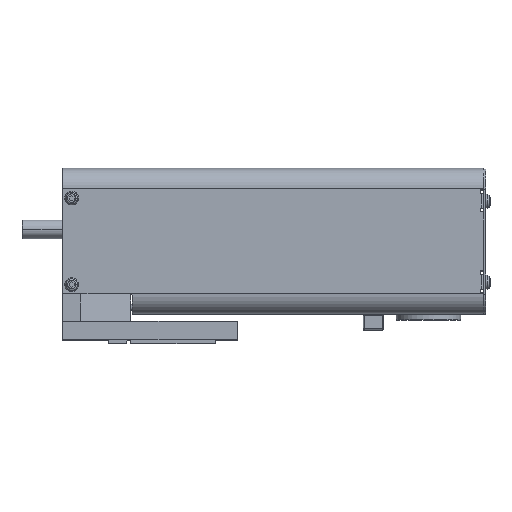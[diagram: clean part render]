
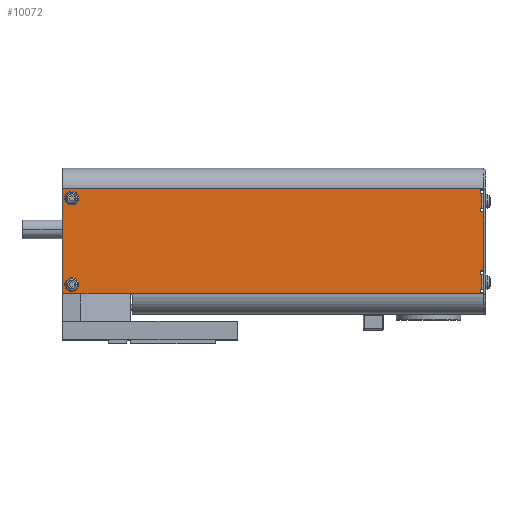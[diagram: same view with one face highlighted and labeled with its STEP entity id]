
A CAD part, top view. The second image highlights one B-rep face of the part: STEP entity #10072.
In plain terms, the highlighted planar face has unit normal (0, 0, 1).
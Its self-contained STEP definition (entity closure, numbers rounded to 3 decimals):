
#550=DIRECTION('',(1.,0.,0.));
#551=VECTOR('',#550,190.8);
#552=CARTESIAN_POINT('',(38.,-35.,33.2));
#553=LINE('',#552,#551);
#829=DIRECTION('',(-1.,0.,0.));
#830=VECTOR('',#829,2.);
#831=CARTESIAN_POINT('',(228.8,-34.5,33.2));
#832=LINE('',#831,#830);
#841=DIRECTION('',(0.,-1.,0.));
#842=VECTOR('',#841,57.);
#843=CARTESIAN_POINT('',(0.,22.,33.2));
#844=LINE('',#843,#842);
#845=DIRECTION('',(0.,1.,0.));
#846=VECTOR('',#845,0.5);
#847=CARTESIAN_POINT('',(228.8,21.5,33.2));
#848=LINE('',#847,#846);
#849=DIRECTION('',(1.,0.,0.));
#850=VECTOR('',#849,2.);
#851=CARTESIAN_POINT('',(226.8,21.5,33.2));
#852=LINE('',#851,#850);
#853=DIRECTION('',(0.,1.,0.));
#854=VECTOR('',#853,32.);
#855=CARTESIAN_POINT('',(228.8,-22.5,33.2));
#856=LINE('',#855,#854);
#857=DIRECTION('',(0.,1.,0.));
#858=VECTOR('',#857,0.5);
#859=CARTESIAN_POINT('',(228.8,-35.,33.2));
#860=LINE('',#859,#858);
#861=DIRECTION('',(1.,0.,0.));
#862=VECTOR('',#861,27.441);
#863=CARTESIAN_POINT('',(10.559,-35.,33.2));
#864=LINE('',#863,#862);
#865=CARTESIAN_POINT('',(5.,17.,33.2));
#866=DIRECTION('',(0.,0.,1.));
#867=DIRECTION('',(-1.,0.,0.));
#868=AXIS2_PLACEMENT_3D('',#865,#866,#867);
#870=CARTESIAN_POINT('',(5.,17.,33.2));
#871=DIRECTION('',(0.,0.,1.));
#872=DIRECTION('',(1.,0.,0.));
#873=AXIS2_PLACEMENT_3D('',#870,#871,#872);
#875=CARTESIAN_POINT('',(5.,-30.,33.2));
#876=DIRECTION('',(0.,0.,1.));
#877=DIRECTION('',(-1.,0.,0.));
#878=AXIS2_PLACEMENT_3D('',#875,#876,#877);
#880=CARTESIAN_POINT('',(5.,-30.,33.2));
#881=DIRECTION('',(0.,0.,1.));
#882=DIRECTION('',(1.,0.,0.));
#883=AXIS2_PLACEMENT_3D('',#880,#881,#882);
#889=DIRECTION('',(-1.,0.,0.));
#890=VECTOR('',#889,228.8);
#891=CARTESIAN_POINT('',(228.8,22.,33.2));
#892=LINE('',#891,#890);
#2225=DIRECTION('',(1.,0.,0.));
#2226=VECTOR('',#2225,10.559);
#2227=CARTESIAN_POINT('',(0.,-35.,33.2));
#2228=LINE('',#2227,#2226);
#3931=DIRECTION('',(0.,1.,0.));
#3932=VECTOR('',#3931,2.);
#3933=CARTESIAN_POINT('',(226.8,19.5,33.2));
#3934=LINE('',#3933,#3932);
#3952=DIRECTION('',(-1.,0.,0.));
#3953=VECTOR('',#3952,0.8);
#3954=CARTESIAN_POINT('',(227.6,19.5,33.2));
#3955=LINE('',#3954,#3953);
#3968=DIRECTION('',(0.,1.,0.));
#3969=VECTOR('',#3968,8.);
#3970=CARTESIAN_POINT('',(227.6,11.5,33.2));
#3971=LINE('',#3970,#3969);
#3980=DIRECTION('',(1.,0.,0.));
#3981=VECTOR('',#3980,0.8);
#3982=CARTESIAN_POINT('',(226.8,11.5,33.2));
#3983=LINE('',#3982,#3981);
#4115=DIRECTION('',(0.,1.,0.));
#4116=VECTOR('',#4115,2.);
#4117=CARTESIAN_POINT('',(226.8,9.5,33.2));
#4118=LINE('',#4117,#4116);
#4135=DIRECTION('',(-1.,0.,0.));
#4136=VECTOR('',#4135,2.);
#4137=CARTESIAN_POINT('',(228.8,9.5,33.2));
#4138=LINE('',#4137,#4136);
#4163=DIRECTION('',(1.,0.,0.));
#4164=VECTOR('',#4163,2.);
#4165=CARTESIAN_POINT('',(226.8,-22.5,33.2));
#4166=LINE('',#4165,#4164);
#4171=DIRECTION('',(0.,1.,0.));
#4172=VECTOR('',#4171,2.);
#4173=CARTESIAN_POINT('',(226.8,-24.5,33.2));
#4174=LINE('',#4173,#4172);
#4192=DIRECTION('',(-1.,0.,0.));
#4193=VECTOR('',#4192,0.8);
#4194=CARTESIAN_POINT('',(227.6,-24.5,33.2));
#4195=LINE('',#4194,#4193);
#4208=DIRECTION('',(0.,1.,0.));
#4209=VECTOR('',#4208,8.);
#4210=CARTESIAN_POINT('',(227.6,-32.5,33.2));
#4211=LINE('',#4210,#4209);
#4224=DIRECTION('',(1.,0.,0.));
#4225=VECTOR('',#4224,0.8);
#4226=CARTESIAN_POINT('',(226.8,-32.5,33.2));
#4227=LINE('',#4226,#4225);
#4351=DIRECTION('',(0.,1.,0.));
#4352=VECTOR('',#4351,2.);
#4353=CARTESIAN_POINT('',(226.8,-34.5,33.2));
#4354=LINE('',#4353,#4352);
#8278=CARTESIAN_POINT('',(0.,22.,33.2));
#8280=VERTEX_POINT('',#8278);
#8290=CARTESIAN_POINT('',(38.,-35.,33.2));
#8292=VERTEX_POINT('',#8290);
#8357=CARTESIAN_POINT('',(228.8,21.5,33.2));
#8358=CARTESIAN_POINT('',(228.8,22.,33.2));
#8359=VERTEX_POINT('',#8357);
#8360=VERTEX_POINT('',#8358);
#8373=CARTESIAN_POINT('',(228.8,-22.5,33.2));
#8374=CARTESIAN_POINT('',(228.8,9.5,33.2));
#8375=VERTEX_POINT('',#8373);
#8376=VERTEX_POINT('',#8374);
#8377=CARTESIAN_POINT('',(228.8,-35.,33.2));
#8378=CARTESIAN_POINT('',(228.8,-34.5,33.2));
#8379=VERTEX_POINT('',#8377);
#8380=VERTEX_POINT('',#8378);
#8389=CARTESIAN_POINT('',(226.8,21.5,33.2));
#8390=VERTEX_POINT('',#8389);
#8419=CARTESIAN_POINT('',(226.8,19.5,33.2));
#8420=VERTEX_POINT('',#8419);
#8421=CARTESIAN_POINT('',(227.6,19.5,33.2));
#8422=VERTEX_POINT('',#8421);
#8423=CARTESIAN_POINT('',(227.6,11.5,33.2));
#8424=VERTEX_POINT('',#8423);
#8425=CARTESIAN_POINT('',(226.8,11.5,33.2));
#8426=VERTEX_POINT('',#8425);
#8427=CARTESIAN_POINT('',(226.8,9.5,33.2));
#8428=VERTEX_POINT('',#8427);
#8429=CARTESIAN_POINT('',(226.8,-22.5,33.2));
#8430=VERTEX_POINT('',#8429);
#8431=CARTESIAN_POINT('',(226.8,-24.5,33.2));
#8432=VERTEX_POINT('',#8431);
#8433=CARTESIAN_POINT('',(227.6,-24.5,33.2));
#8434=VERTEX_POINT('',#8433);
#8435=CARTESIAN_POINT('',(227.6,-32.5,33.2));
#8436=VERTEX_POINT('',#8435);
#8437=CARTESIAN_POINT('',(226.8,-32.5,33.2));
#8438=VERTEX_POINT('',#8437);
#8439=CARTESIAN_POINT('',(226.8,-34.5,33.2));
#8440=VERTEX_POINT('',#8439);
#8543=CARTESIAN_POINT('',(10.559,-35.,33.2));
#8545=VERTEX_POINT('',#8543);
#8547=CARTESIAN_POINT('',(0.,-35.,33.2));
#8548=VERTEX_POINT('',#8547);
#8565=CARTESIAN_POINT('',(1.25,17.,33.2));
#8566=CARTESIAN_POINT('',(8.75,17.,33.2));
#8567=VERTEX_POINT('',#8565);
#8568=VERTEX_POINT('',#8566);
#8569=CARTESIAN_POINT('',(1.25,-30.,33.2));
#8570=CARTESIAN_POINT('',(8.75,-30.,33.2));
#8571=VERTEX_POINT('',#8569);
#8572=VERTEX_POINT('',#8570);
#10014=CARTESIAN_POINT('',(114.4,-6.5,33.2));
#10015=DIRECTION('',(0.,0.,1.));
#10016=DIRECTION('',(0.,-1.,0.));
#10017=AXIS2_PLACEMENT_3D('',#10014,#10015,#10016);
#10018=PLANE('',#10017);
#10019=ORIENTED_EDGE('',*,*,#9164,.F.);
#10021=ORIENTED_EDGE('',*,*,#10020,.F.);
#10022=ORIENTED_EDGE('',*,*,#9547,.F.);
#10024=ORIENTED_EDGE('',*,*,#10023,.F.);
#10026=ORIENTED_EDGE('',*,*,#10025,.F.);
#10028=ORIENTED_EDGE('',*,*,#10027,.F.);
#10030=ORIENTED_EDGE('',*,*,#10029,.F.);
#10032=ORIENTED_EDGE('',*,*,#10031,.F.);
#10034=ORIENTED_EDGE('',*,*,#10033,.F.);
#10036=ORIENTED_EDGE('',*,*,#10035,.F.);
#10038=ORIENTED_EDGE('',*,*,#10037,.F.);
#10040=ORIENTED_EDGE('',*,*,#10039,.F.);
#10042=ORIENTED_EDGE('',*,*,#10041,.F.);
#10044=ORIENTED_EDGE('',*,*,#10043,.F.);
#10046=ORIENTED_EDGE('',*,*,#10045,.F.);
#10048=ORIENTED_EDGE('',*,*,#10047,.F.);
#10050=ORIENTED_EDGE('',*,*,#10049,.F.);
#10051=ORIENTED_EDGE('',*,*,#10006,.F.);
#10052=ORIENTED_EDGE('',*,*,#9632,.F.);
#10053=ORIENTED_EDGE('',*,*,#9665,.F.);
#10055=ORIENTED_EDGE('',*,*,#10054,.F.);
#10057=ORIENTED_EDGE('',*,*,#10056,.F.);
#10058=EDGE_LOOP('',(#10019,#10021,#10022,#10024,#10026,#10028,#10030,#10032,
#10034,#10036,#10038,#10040,#10042,#10044,#10046,#10048,#10050,#10051,#10052,
#10053,#10055,#10057));
#10059=FACE_OUTER_BOUND('',#10058,.F.);
#10061=ORIENTED_EDGE('',*,*,#10060,.T.);
#10063=ORIENTED_EDGE('',*,*,#10062,.T.);
#10064=EDGE_LOOP('',(#10061,#10063));
#10065=FACE_BOUND('',#10064,.F.);
#10067=ORIENTED_EDGE('',*,*,#10066,.T.);
#10069=ORIENTED_EDGE('',*,*,#10068,.T.);
#10070=EDGE_LOOP('',(#10067,#10069));
#10071=FACE_BOUND('',#10070,.F.);
#10072=ADVANCED_FACE('',(#10059,#10065,#10071),#10018,.T.);
#869=CIRCLE('',#868,3.75);
#874=CIRCLE('',#873,3.75);
#879=CIRCLE('',#878,3.75);
#884=CIRCLE('',#883,3.75);
#9164=EDGE_CURVE('',#8280,#8548,#844,.T.);
#9547=EDGE_CURVE('',#8359,#8360,#848,.T.);
#9632=EDGE_CURVE('',#8379,#8380,#860,.T.);
#9665=EDGE_CURVE('',#8292,#8379,#553,.T.);
#10006=EDGE_CURVE('',#8380,#8440,#832,.T.);
#10020=EDGE_CURVE('',#8360,#8280,#892,.T.);
#10023=EDGE_CURVE('',#8390,#8359,#852,.T.);
#10025=EDGE_CURVE('',#8420,#8390,#3934,.T.);
#10027=EDGE_CURVE('',#8422,#8420,#3955,.T.);
#10029=EDGE_CURVE('',#8424,#8422,#3971,.T.);
#10031=EDGE_CURVE('',#8426,#8424,#3983,.T.);
#10033=EDGE_CURVE('',#8428,#8426,#4118,.T.);
#10035=EDGE_CURVE('',#8376,#8428,#4138,.T.);
#10037=EDGE_CURVE('',#8375,#8376,#856,.T.);
#10039=EDGE_CURVE('',#8430,#8375,#4166,.T.);
#10041=EDGE_CURVE('',#8432,#8430,#4174,.T.);
#10043=EDGE_CURVE('',#8434,#8432,#4195,.T.);
#10045=EDGE_CURVE('',#8436,#8434,#4211,.T.);
#10047=EDGE_CURVE('',#8438,#8436,#4227,.T.);
#10049=EDGE_CURVE('',#8440,#8438,#4354,.T.);
#10054=EDGE_CURVE('',#8545,#8292,#864,.T.);
#10056=EDGE_CURVE('',#8548,#8545,#2228,.T.);
#10060=EDGE_CURVE('',#8567,#8568,#869,.T.);
#10062=EDGE_CURVE('',#8568,#8567,#874,.T.);
#10066=EDGE_CURVE('',#8571,#8572,#879,.T.);
#10068=EDGE_CURVE('',#8572,#8571,#884,.T.);
